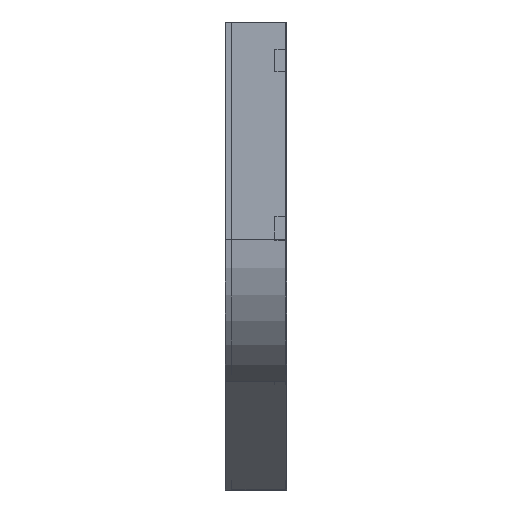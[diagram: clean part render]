
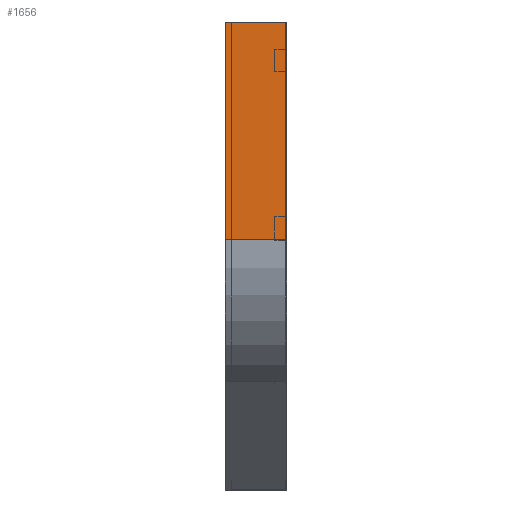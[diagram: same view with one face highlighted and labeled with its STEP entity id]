
A CAD part, left-side view. The second image highlights one B-rep face of the part: STEP entity #1656.
In plain terms, the highlighted planar face has unit normal (-1, 0, 0).
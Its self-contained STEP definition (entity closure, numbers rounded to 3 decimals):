
#109 = LINE ( 'NONE', #829, #1569 ) ;
#125 = CARTESIAN_POINT ( 'NONE',  ( 0., 112.5, 0. ) ) ;
#204 = DIRECTION ( 'NONE',  ( 1., 0., 0. ) ) ;
#291 = VECTOR ( 'NONE', #1560, 1000. ) ;
#350 = CARTESIAN_POINT ( 'NONE',  ( 0., 0., 0. ) ) ;
#357 = FACE_OUTER_BOUND ( 'NONE', #1270, .T. ) ;
#375 = CARTESIAN_POINT ( 'NONE',  ( 0., 0., 0. ) ) ;
#381 = ORIENTED_EDGE ( 'NONE', *, *, #922, .F. ) ;
#436 = VECTOR ( 'NONE', #970, 1000. ) ;
#449 = CARTESIAN_POINT ( 'NONE',  ( 0., 0., 0. ) ) ;
#468 = CARTESIAN_POINT ( 'NONE',  ( 0., 112.5, -396.41 ) ) ;
#489 = VERTEX_POINT ( 'NONE', #375 ) ;
#671 = LINE ( 'NONE', #1136, #436 ) ;
#694 = CARTESIAN_POINT ( 'NONE',  ( 0., 112.5, 0. ) ) ;
#725 = ORIENTED_EDGE ( 'NONE', *, *, #1754, .T. ) ;
#731 = LINE ( 'NONE', #449, #1341 ) ;
#762 = PLANE ( 'NONE',  #980 ) ;
#768 = ORIENTED_EDGE ( 'NONE', *, *, #1684, .T. ) ;
#782 = DIRECTION ( 'NONE',  ( 0., 0., -1. ) ) ;
#829 = CARTESIAN_POINT ( 'NONE',  ( 0., 0., 0. ) ) ;
#844 = LINE ( 'NONE', #125, #291 ) ;
#922 = EDGE_CURVE ( 'NONE', #489, #1359, #109, .T. ) ;
#959 = ORIENTED_EDGE ( 'NONE', *, *, #1513, .F. ) ;
#970 = DIRECTION ( 'NONE',  ( 0., -1., 0. ) ) ;
#980 = AXIS2_PLACEMENT_3D ( 'NONE', #350, #204, #782 ) ;
#996 = DIRECTION ( 'NONE',  ( 0., 0., -1. ) ) ;
#1023 = DIRECTION ( 'NONE',  ( 0., -1., 0. ) ) ;
#1136 = CARTESIAN_POINT ( 'NONE',  ( 0., 0., -396.41 ) ) ;
#1157 = VERTEX_POINT ( 'NONE', #468 ) ;
#1270 = EDGE_LOOP ( 'NONE', ( #381, #959, #768, #725 ) ) ;
#1341 = VECTOR ( 'NONE', #1023, 1000. ) ;
#1359 = VERTEX_POINT ( 'NONE', #1410 ) ;
#1410 = CARTESIAN_POINT ( 'NONE',  ( 0., 0., -396.41 ) ) ;
#1513 = EDGE_CURVE ( 'NONE', #1703, #489, #731, .T. ) ;
#1560 = DIRECTION ( 'NONE',  ( 0., 0., -1. ) ) ;
#1569 = VECTOR ( 'NONE', #996, 1000. ) ;
#1656 = ADVANCED_FACE ( 'NONE', ( #357 ), #762, .F. ) ;
#1684 = EDGE_CURVE ( 'NONE', #1703, #1157, #844, .T. ) ;
#1703 = VERTEX_POINT ( 'NONE', #694 ) ;
#1754 = EDGE_CURVE ( 'NONE', #1157, #1359, #671, .T. ) ;
